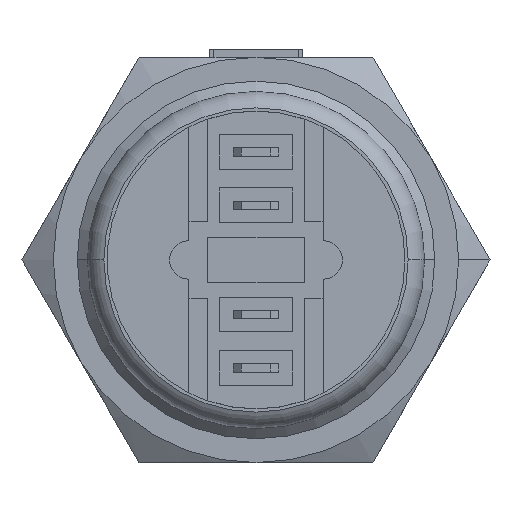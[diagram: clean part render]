
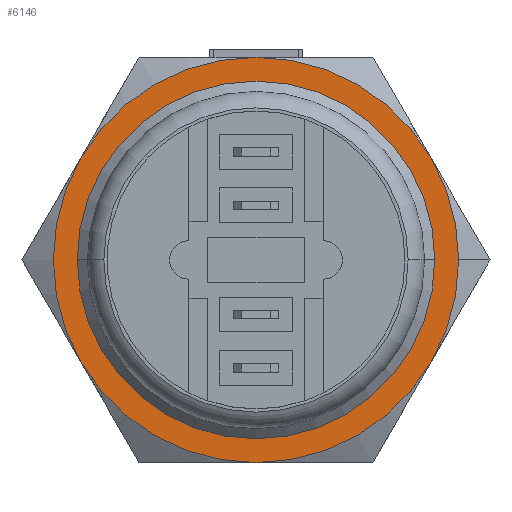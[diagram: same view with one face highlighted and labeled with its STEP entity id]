
A CAD part, front view. The second image highlights one B-rep face of the part: STEP entity #6146.
In plain terms, the highlighted planar face has unit normal (0, -1, 0).
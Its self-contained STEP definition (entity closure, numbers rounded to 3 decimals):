
#1051 = CARTESIAN_POINT ( 'NONE',  ( 0., 3.764, 0. ) ) ;
#1073 = DIRECTION ( 'NONE',  ( 0., -1., 0. ) ) ;
#1074 = DIRECTION ( 'NONE',  ( 1., 0., 0. ) ) ;
#1078 = CARTESIAN_POINT ( 'NONE',  ( 0., 3.764, 0. ) ) ;
#1079 = DIRECTION ( 'NONE',  ( 0., 1., 0. ) ) ;
#1080 = DIRECTION ( 'NONE',  ( -1., 0., 0. ) ) ;
#1081 = CARTESIAN_POINT ( 'NONE',  ( 0., 3.764, 0. ) ) ;
#1082 = DIRECTION ( 'NONE',  ( 0., -1., 0. ) ) ;
#1083 = DIRECTION ( 'NONE',  ( 1., 0., 0. ) ) ;
#1084 = CARTESIAN_POINT ( 'NONE',  ( 0., 3.764, 0. ) ) ;
#1088 = DIRECTION ( 'NONE',  ( 0., -1., 0. ) ) ;
#1089 = DIRECTION ( 'NONE',  ( 1., 0., 0. ) ) ;
#1093 = CARTESIAN_POINT ( 'NONE',  ( 0., 3.764, 0. ) ) ;
#1103 = DIRECTION ( 'NONE',  ( 0., -1., 0. ) ) ;
#1104 = DIRECTION ( 'NONE',  ( 1., 0., 0. ) ) ;
#1117 = CARTESIAN_POINT ( 'NONE',  ( 0., 3.764, 0. ) ) ;
#1118 = DIRECTION ( 'NONE',  ( 0., -1., 0. ) ) ;
#1119 = DIRECTION ( 'NONE',  ( 1., 0., 0. ) ) ;
#1120 = CARTESIAN_POINT ( 'NONE',  ( 0., 3.764, 0. ) ) ;
#1121 = DIRECTION ( 'NONE',  ( 0., -1., 0. ) ) ;
#1122 = DIRECTION ( 'NONE',  ( 1., 0., 0. ) ) ;
#2159 = CARTESIAN_POINT ( 'NONE',  ( 0., 3.764, 0. ) ) ;
#2160 = DIRECTION ( 'NONE',  ( 0., -1., 0. ) ) ;
#2161 = DIRECTION ( 'NONE',  ( 1., 0., 0. ) ) ;
#2189 = CARTESIAN_POINT ( 'NONE',  ( 0., 3.764, 0. ) ) ;
#2190 = DIRECTION ( 'NONE',  ( 0., 1., 0. ) ) ;
#2191 = DIRECTION ( 'NONE',  ( -1., 0., 0. ) ) ;
#2989 = AXIS2_PLACEMENT_3D ( 'NONE', #4955, #4957, #4959 ) ;
#2991 = FACE_OUTER_BOUND ( 'NONE', #3165, .T. ) ;
#2996 = FACE_BOUND ( 'NONE', #3164, .T. ) ;
#3164 = EDGE_LOOP ( 'NONE', ( #3814, #3812 ) ) ;
#3165 = EDGE_LOOP ( 'NONE', ( #3810, #3808, #3806, #3816, #3804, #3802, #3800 ) ) ;
#3800 = ORIENTED_EDGE ( 'NONE', *, *, #6951, .T. ) ;
#3802 = ORIENTED_EDGE ( 'NONE', *, *, #6955, .T. ) ;
#3804 = ORIENTED_EDGE ( 'NONE', *, *, #6969, .T. ) ;
#3806 = ORIENTED_EDGE ( 'NONE', *, *, #6968, .T. ) ;
#3808 = ORIENTED_EDGE ( 'NONE', *, *, #6480, .T. ) ;
#3810 = ORIENTED_EDGE ( 'NONE', *, *, #6963, .T. ) ;
#3812 = ORIENTED_EDGE ( 'NONE', *, *, #6953, .T. ) ;
#3814 = ORIENTED_EDGE ( 'NONE', *, *, #6490, .T. ) ;
#3816 = ORIENTED_EDGE ( 'NONE', *, *, #6957, .T. ) ;
#3819 = CARTESIAN_POINT ( 'NONE',  ( 0., 3.764, 12.384 ) ) ;
#3831 = CARTESIAN_POINT ( 'NONE',  ( 10.725, 3.764, -6.192 ) ) ;
#3839 = CARTESIAN_POINT ( 'NONE',  ( 0., 3.764, -12.384 ) ) ;
#3847 = CARTESIAN_POINT ( 'NONE',  ( -10.725, 3.764, -6.192 ) ) ;
#3853 = CARTESIAN_POINT ( 'NONE',  ( -10.725, 3.764, 6.192 ) ) ;
#3909 = CARTESIAN_POINT ( 'NONE',  ( 12.384, 3.764, 0. ) ) ;
#3919 = CARTESIAN_POINT ( 'NONE',  ( -10.925, 3.764, 0. ) ) ;
#3939 = CARTESIAN_POINT ( 'NONE',  ( 10.925, 3.764, 0. ) ) ;
#4210 = CARTESIAN_POINT ( 'NONE',  ( 10.725, 3.764, 6.192 ) ) ;
#4299 = VERTEX_POINT ( 'NONE', #3819 ) ;
#4313 = VERTEX_POINT ( 'NONE', #3831 ) ;
#4322 = VERTEX_POINT ( 'NONE', #3839 ) ;
#4330 = VERTEX_POINT ( 'NONE', #3847 ) ;
#4336 = VERTEX_POINT ( 'NONE', #3853 ) ;
#4392 = VERTEX_POINT ( 'NONE', #3909 ) ;
#4402 = VERTEX_POINT ( 'NONE', #3919 ) ;
#4423 = VERTEX_POINT ( 'NONE', #3939 ) ;
#4700 = VERTEX_POINT ( 'NONE', #4210 ) ;
#4953 = PLANE ( 'NONE',  #2989 ) ;
#4955 = CARTESIAN_POINT ( 'NONE',  ( -10.925, 3.764, 0. ) ) ;
#4957 = DIRECTION ( 'NONE',  ( 0., -1., 0. ) ) ;
#4959 = DIRECTION ( 'NONE',  ( 1., 0., 0. ) ) ;
#5652 = AXIS2_PLACEMENT_3D ( 'NONE', #1120, #1121, #1122 ) ;
#5653 = AXIS2_PLACEMENT_3D ( 'NONE', #1117, #1118, #1119 ) ;
#5668 = AXIS2_PLACEMENT_3D ( 'NONE', #1093, #1103, #1104 ) ;
#5670 = AXIS2_PLACEMENT_3D ( 'NONE', #1084, #1088, #1089 ) ;
#5672 = AXIS2_PLACEMENT_3D ( 'NONE', #1081, #1082, #1083 ) ;
#5687 = AXIS2_PLACEMENT_3D ( 'NONE', #1078, #1079, #1080 ) ;
#5694 = AXIS2_PLACEMENT_3D ( 'NONE', #2159, #2160, #2161 ) ;
#5695 = AXIS2_PLACEMENT_3D ( 'NONE', #1051, #1073, #1074 ) ;
#5720 = AXIS2_PLACEMENT_3D ( 'NONE', #2189, #2190, #2191 ) ;
#6146 = ADVANCED_FACE ( 'NONE', ( #2996, #2991 ), #4953, .T. ) ;
#6480 = EDGE_CURVE ( 'NONE', #4392, #4700, #6653, .T. ) ;
#6490 = EDGE_CURVE ( 'NONE', #4402, #4423, #6573, .T. ) ;
#6573 = CIRCLE ( 'NONE', #5720, 10.925 ) ;
#6653 = CIRCLE ( 'NONE', #5694, 12.384 ) ;
#6951 = EDGE_CURVE ( 'NONE', #4322, #4313, #7063, .T. ) ;
#6953 = EDGE_CURVE ( 'NONE', #4423, #4402, #7061, .T. ) ;
#6955 = EDGE_CURVE ( 'NONE', #4330, #4322, #7058, .T. ) ;
#6957 = EDGE_CURVE ( 'NONE', #4299, #4336, #7056, .T. ) ;
#6963 = EDGE_CURVE ( 'NONE', #4313, #4392, #7049, .T. ) ;
#6968 = EDGE_CURVE ( 'NONE', #4700, #4299, #7045, .T. ) ;
#6969 = EDGE_CURVE ( 'NONE', #4336, #4330, #7044, .T. ) ;
#7044 = CIRCLE ( 'NONE', #5652, 12.384 ) ;
#7045 = CIRCLE ( 'NONE', #5653, 12.384 ) ;
#7049 = CIRCLE ( 'NONE', #5668, 12.384 ) ;
#7056 = CIRCLE ( 'NONE', #5670, 12.384 ) ;
#7058 = CIRCLE ( 'NONE', #5672, 12.384 ) ;
#7061 = CIRCLE ( 'NONE', #5687, 10.925 ) ;
#7063 = CIRCLE ( 'NONE', #5695, 12.384 ) ;
